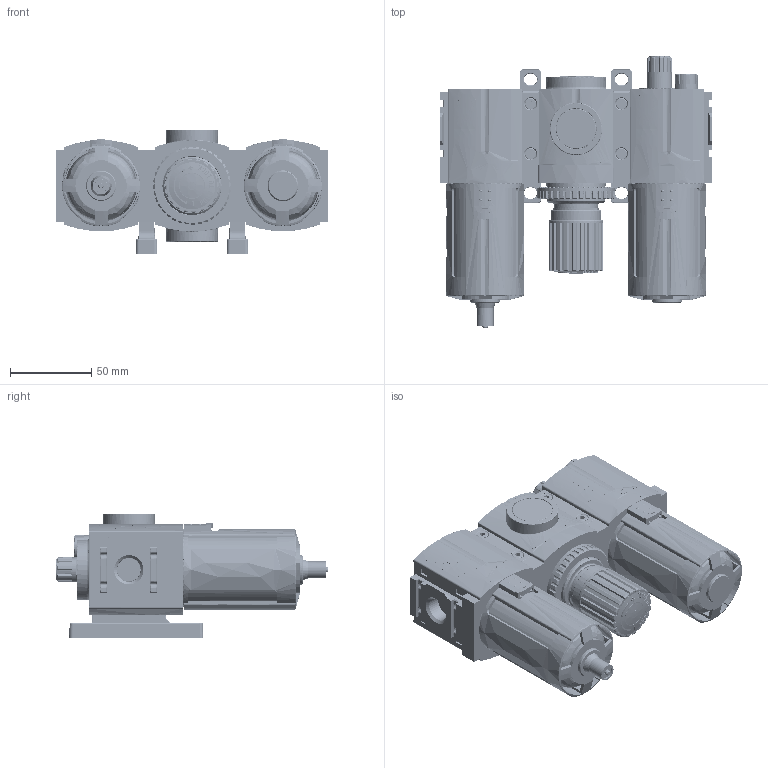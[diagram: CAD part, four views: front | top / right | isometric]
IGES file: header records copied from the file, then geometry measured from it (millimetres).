
Global section: file name: C:\Documents and Settings\szeedyk\Desktop\C382X1-80X_01.igs; native system: NX V4.0; preprocessor: UGS NX IGES V4.0; date: 20090204.114759; units: inch
Bounding box: 168 x 167.99 x 76.35 mm (x, y, z)
Surface area: 157964.5 mm2 (no closed solid volume)
Topology: 0 solids, 0 shells, 5054 faces, 29146 edges, 29127 vertices
Faces by surface type: bspline 5054
